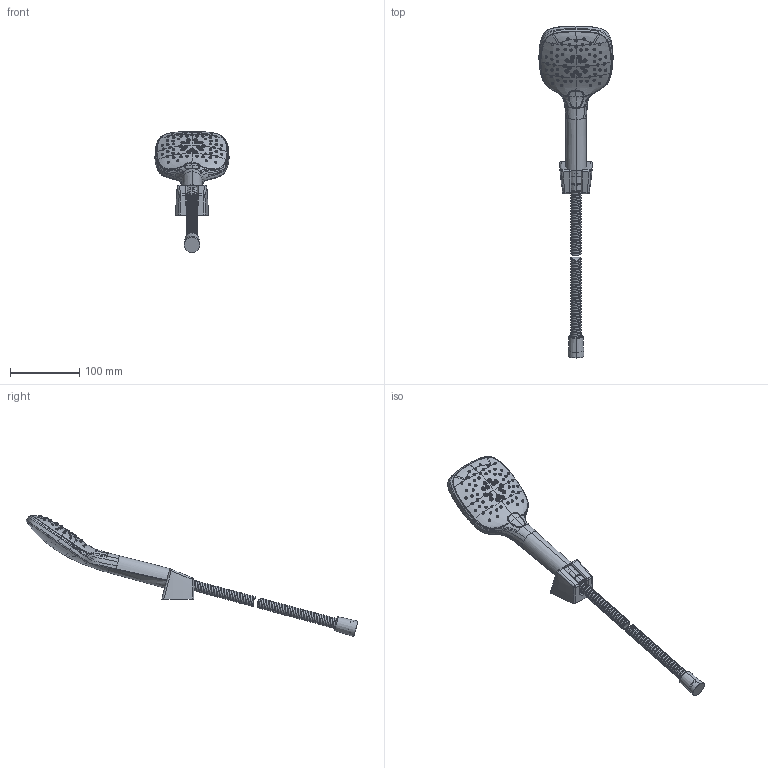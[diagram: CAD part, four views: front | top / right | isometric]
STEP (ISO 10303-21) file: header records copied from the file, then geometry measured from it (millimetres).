
FILE_DESCRIPTION((''),'2;1');
FILE_NAME('76526--','2026-09-23T15:30:37',('simi1'),(''),'CREO PARAMETRIC BY PTC INC, 2022244','CREO PARAMETRIC BY PTC INC, 2022244','');
FILE_SCHEMA(('CONFIG_CONTROL_DESIGN'));
Products named in the file (1): 76526--
Bounding box: 106.91 x 478.27 x 174.61 mm (x, y, z)
Surface area: 70739.5 mm2 (no closed solid volume)
Topology: 0 solids, 81 shells, 829 faces, 2515 edges, 1733 vertices
Faces by surface type: bspline 326, torus 152, cylinder 133, cone 120, plane 87, extrusion 6, sphere 5
Entity records: 73431 total; most frequent: CARTESIAN_POINT 54569, ORIENTED_EDGE 4434, DIRECTION 2846, EDGE_CURVE 2515, VERTEX_POINT 1733, B_SPLINE_CURVE_WITH_KNOTS 1417, AXIS2_PLACEMENT_3D 1239, EDGE_LOOP 829
